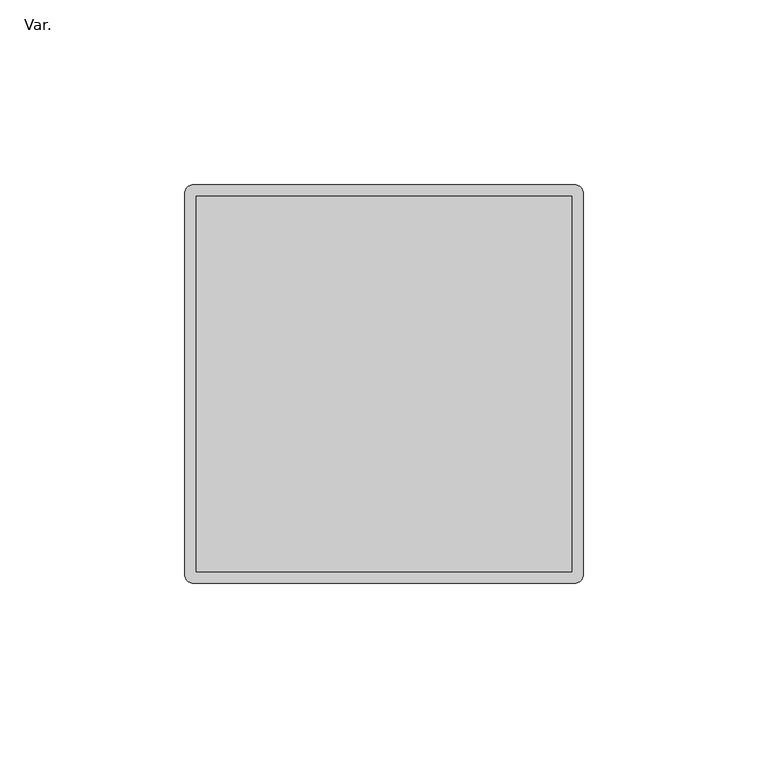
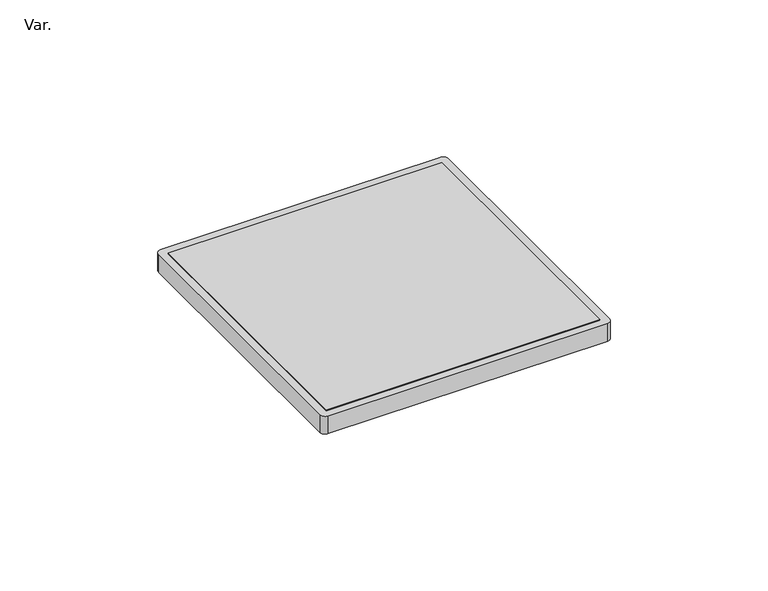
"""IFC4 building model written with IfcOpenShell, lengths in millimetres: pipe fitting geometry, Z_Amanco Esgoto Caixa Sif DN 100  SQ GRID(Nested) : Var.."""

from ifc_helpers import new_model, si_unit, point, frame, frame_2d, origin, place, context, project, spatial, polyline, circle_curve, trimmed, segment, composite_curve, outline, extrude, source, transform, mapped, element, save


def var_304c1aea(model_context):
    return source(origin(), model_context, "Body", "SweptSolid", [
        extrude(outline(polyline([(-50.8, -50.8), (-50.8, 50.8), (50.8, 50.8), (50.8, -50.8), (-50.8, -50.8)])), frame((0.0, 0.0, -7.0), z_axis=(0.0, 0.0, 1.0), x_axis=(1.0, 0.0, 0.0)), (0.0, 0.0, 1.0), 7.1),
        extrude(outline(composite_curve([segment(polyline([(-53.8, -51.8), (-53.8, 51.8)]), True, "CONTINUOUS"), segment(trimmed(circle_curve(frame_2d((-51.8, 51.8)), 2.0), [point((-53.8, 51.8))], [point((-51.8, 53.8))], False, "CARTESIAN"), True, "CONTINUOUS"), segment(polyline([(-51.8, 53.8), (51.8, 53.8)]), True, "CONTINUOUS"), segment(trimmed(circle_curve(frame_2d((51.8, 51.8)), 2.0), [point((51.8, 53.8))], [point((53.8, 51.8))], False, "CARTESIAN"), True, "CONTINUOUS"), segment(polyline([(53.8, 51.8), (53.8, -51.8)]), True, "CONTINUOUS"), segment(trimmed(circle_curve(frame_2d((51.8, -51.8)), 2.0), [point((53.8, -51.8))], [point((51.8, -53.8))], False, "CARTESIAN"), True, "CONTINUOUS"), segment(polyline([(51.8, -53.8), (-51.8, -53.8)]), True, "CONTINUOUS"), segment(trimmed(circle_curve(frame_2d((-51.8, -51.8)), 2.0), [point((-51.8, -53.8))], [point((-53.8, -51.8))], False, "CARTESIAN"), True, "CONTINUOUS")], self_intersect=False), holes=[polyline([(50.8, 50.8), (-50.8, 50.8), (-50.8, -50.8), (50.8, -50.8), (50.8, 50.8)])]), frame((0.0, 0.0, -7.0), z_axis=(0.0, 0.0, 1.0), x_axis=(1.0, 0.0, 0.0)), (0.0, 0.0, 1.0), 7.0),
    ])


if __name__ == "__main__":
    model = new_model("IFC4")
    model_context = context("Model", 3, world=origin())
    ifc_project = project(units=[si_unit("LENGTHUNIT", "METRE", prefix="MILLI")], contexts=[model_context])
    site = spatial("IfcSite", under=ifc_project)
    building = spatial("IfcBuilding", under=site)
    placement = place(None, origin())
    var_shape = var_304c1aea(model_context)
    element("IfcPipeFitting", 1, ObjectType="Z_Amanco Esgoto Caixa Sif DN 100  SQ GRID(Nested) : Var.", at=placement, inside=building, context=model_context, shape_type="MappedRepresentation", body=[
        mapped(var_shape, transform((0.0, 0.0, 0.0), x_axis=(1.0, 0.0, 0.0), y_axis=(0.0, 1.0, 0.0), z_axis=(0.0, 0.0, 1.0))),
    ])
    save(model, "model.ifc")
